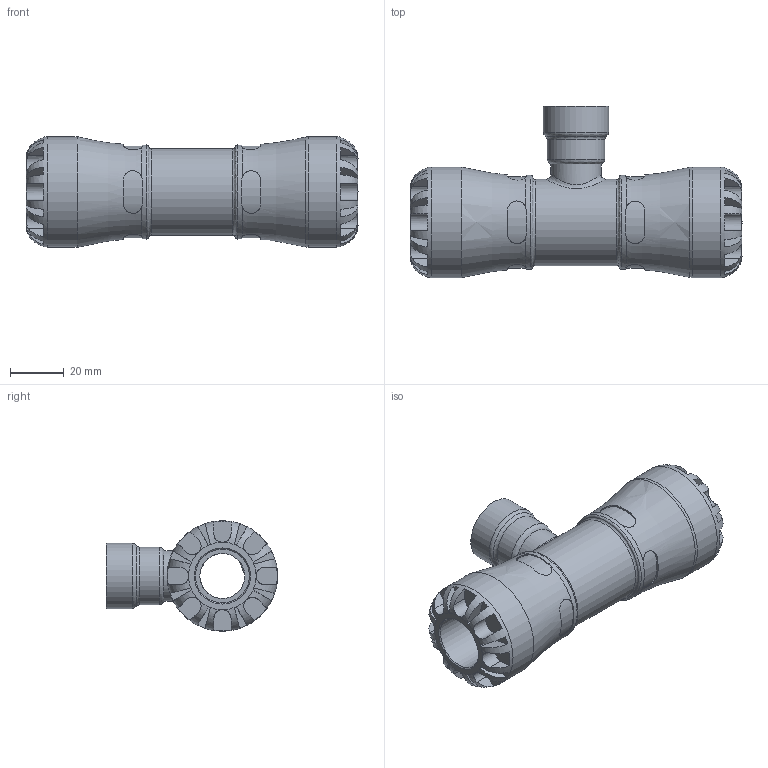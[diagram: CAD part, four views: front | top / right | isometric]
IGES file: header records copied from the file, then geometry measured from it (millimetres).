
Global section: file name: 101400020005_191400020005.ipt; native system: Autodesk Inventor 2015; preprocessor: unknown; author: KIM; date: 20170130.090629; units: millimetre
Bounding box: 123 x 63.5 x 41 mm (x, y, z)
Volume: 90687.4 mm3; surface area: 29303.9 mm2
Topology: 1 solids, 1 shells, 202 faces, 545 edges, 349 vertices
Faces by surface type: plane 118, revolution 51, cylinder 32, bspline 1
Full cylindrical faces by diameter (mm): 18.631 x1, 21.426 x1, 24.22 x1, 31.98 x1, 34.85 x2, 41 x2
